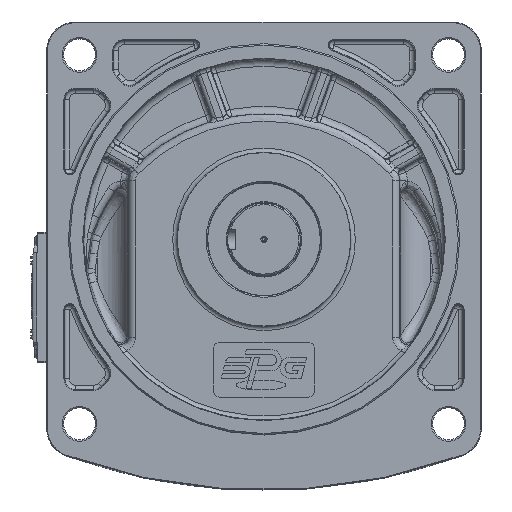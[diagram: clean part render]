
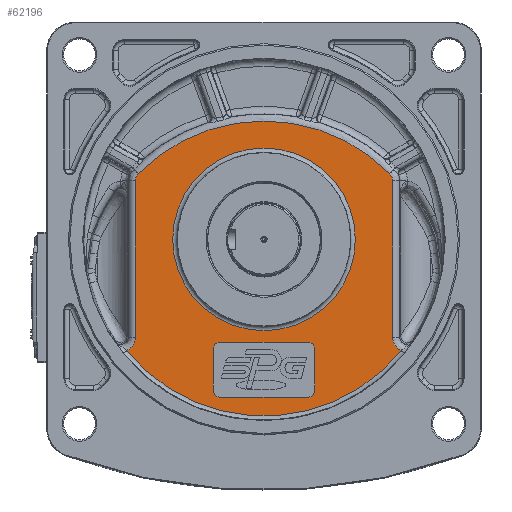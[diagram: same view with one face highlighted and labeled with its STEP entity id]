
A CAD part, front view. The second image highlights one B-rep face of the part: STEP entity #62196.
In plain terms, the highlighted planar face has unit normal (0, -1, 0).
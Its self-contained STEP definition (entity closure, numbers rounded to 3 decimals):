
#713=FACE_BOUND('',#14514,.T.);
#714=FACE_BOUND('',#14515,.T.);
#1749=PLANE('',#67605);
#3849=LINE('',#97499,#6842);
#3853=LINE('',#97511,#6846);
#3857=LINE('',#97523,#6850);
#3954=LINE('',#97799,#6947);
#4047=LINE('',#101322,#7040);
#4048=LINE('',#101324,#7041);
#6842=VECTOR('',#77996,10.);
#6846=VECTOR('',#78008,10.);
#6850=VECTOR('',#78020,10.);
#6947=VECTOR('',#78267,10.);
#7040=VECTOR('',#79038,10.);
#7041=VECTOR('',#79039,10.);
#10561=FACE_OUTER_BOUND('',#14513,.T.);
#14513=EDGE_LOOP('',(#45088,#45089,#45090,#45091,#45092,#45093,#45094,#45095));
#14514=EDGE_LOOP('',(#45096,#45097,#45098,#45099,#45100,#45101,#45102,#45103));
#14515=EDGE_LOOP('',(#45104));
#18444=CIRCLE('',#67183,5.);
#18446=CIRCLE('',#67187,5.);
#18448=CIRCLE('',#67191,5.);
#18450=CIRCLE('',#67195,5.);
#18592=CIRCLE('',#67471,121.601);
#18678=CIRCLE('',#67604,63.);
#18679=CIRCLE('',#67606,121.858);
#21170=B_SPLINE_CURVE_WITH_KNOTS('',3,(#99267,#99268,#99269,#99270,#99271),
 .UNSPECIFIED.,.F.,.F.,(4,1,4),(0.,0.309,0.541),
 .UNSPECIFIED.);
#21258=B_SPLINE_CURVE_WITH_KNOTS('',3,(#101152,#101153,#101154,#101155,
#101156),.UNSPECIFIED.,.F.,.F.,(4,1,4),(0.,0.232,0.541),
 .UNSPECIFIED.);
#21271=B_SPLINE_CURVE_WITH_KNOTS('',3,(#101315,#101316,#101317,#101318,
#101319,#101320,#101321),.UNSPECIFIED.,.F.,.F.,(4,1,1,1,4),(0.,
0.361,0.722,1.084,1.153),
 .UNSPECIFIED.);
#21272=B_SPLINE_CURVE_WITH_KNOTS('',3,(#101325,#101326,#101327,#101328,
#101329,#101330),.UNSPECIFIED.,.F.,.F.,(4,1,1,4),(1.376,1.806,
2.167,2.528),.UNSPECIFIED.);
#25366=VERTEX_POINT('',#97489);
#25367=VERTEX_POINT('',#97491);
#25369=VERTEX_POINT('',#97497);
#25371=VERTEX_POINT('',#97503);
#25373=VERTEX_POINT('',#97509);
#25375=VERTEX_POINT('',#97515);
#25377=VERTEX_POINT('',#97521);
#25379=VERTEX_POINT('',#97527);
#25580=VERTEX_POINT('',#99264);
#25581=VERTEX_POINT('',#99266);
#25594=VERTEX_POINT('',#99331);
#25694=VERTEX_POINT('',#101150);
#25710=VERTEX_POINT('',#101307);
#25711=VERTEX_POINT('',#101311);
#25712=VERTEX_POINT('',#101312);
#25713=VERTEX_POINT('',#101314);
#25714=VERTEX_POINT('',#101323);
#32001=EDGE_CURVE('',#25366,#25367,#18444,.T.);
#32005=EDGE_CURVE('',#25366,#25369,#3849,.T.);
#32008=EDGE_CURVE('',#25371,#25369,#18446,.T.);
#32011=EDGE_CURVE('',#25371,#25373,#3853,.T.);
#32014=EDGE_CURVE('',#25375,#25373,#18448,.T.);
#32017=EDGE_CURVE('',#25375,#25377,#3857,.T.);
#32020=EDGE_CURVE('',#25379,#25377,#18450,.T.);
#32156=EDGE_CURVE('',#25379,#25367,#3954,.T.);
#32373=EDGE_CURVE('',#25580,#25581,#21170,.T.);
#32388=EDGE_CURVE('',#25594,#25580,#18592,.T.);
#32564=EDGE_CURVE('',#25694,#25594,#21258,.T.);
#32597=EDGE_CURVE('',#25710,#25710,#18678,.T.);
#32598=EDGE_CURVE('',#25711,#25712,#18679,.T.);
#32599=EDGE_CURVE('',#25713,#25711,#21271,.T.);
#32600=EDGE_CURVE('',#25581,#25713,#4047,.T.);
#32601=EDGE_CURVE('',#25714,#25694,#4048,.T.);
#32602=EDGE_CURVE('',#25712,#25714,#21272,.T.);
#45088=ORIENTED_EDGE('',*,*,#32598,.F.);
#45089=ORIENTED_EDGE('',*,*,#32599,.F.);
#45090=ORIENTED_EDGE('',*,*,#32600,.F.);
#45091=ORIENTED_EDGE('',*,*,#32373,.F.);
#45092=ORIENTED_EDGE('',*,*,#32388,.F.);
#45093=ORIENTED_EDGE('',*,*,#32564,.F.);
#45094=ORIENTED_EDGE('',*,*,#32601,.F.);
#45095=ORIENTED_EDGE('',*,*,#32602,.F.);
#45096=ORIENTED_EDGE('',*,*,#32017,.T.);
#45097=ORIENTED_EDGE('',*,*,#32020,.F.);
#45098=ORIENTED_EDGE('',*,*,#32156,.T.);
#45099=ORIENTED_EDGE('',*,*,#32001,.F.);
#45100=ORIENTED_EDGE('',*,*,#32005,.T.);
#45101=ORIENTED_EDGE('',*,*,#32008,.F.);
#45102=ORIENTED_EDGE('',*,*,#32011,.T.);
#45103=ORIENTED_EDGE('',*,*,#32014,.F.);
#45104=ORIENTED_EDGE('',*,*,#32597,.F.);
#62196=ADVANCED_FACE('',(#10561,#713,#714),#1749,.F.);
#67183=AXIS2_PLACEMENT_3D('',#97492,#77989,#77990);
#67187=AXIS2_PLACEMENT_3D('',#97505,#78002,#78003);
#67191=AXIS2_PLACEMENT_3D('',#97517,#78014,#78015);
#67195=AXIS2_PLACEMENT_3D('',#97529,#78026,#78027);
#67471=AXIS2_PLACEMENT_3D('',#99333,#78737,#78738);
#67604=AXIS2_PLACEMENT_3D('',#101309,#79032,#79033);
#67605=AXIS2_PLACEMENT_3D('',#101310,#79034,#79035);
#67606=AXIS2_PLACEMENT_3D('',#101313,#79036,#79037);
#77989=DIRECTION('center_axis',(0.,-1.,0.));
#77990=DIRECTION('ref_axis',(0.707,0.,0.707));
#77996=DIRECTION('',(0.,0.,-1.));
#78002=DIRECTION('center_axis',(0.,-1.,0.));
#78003=DIRECTION('ref_axis',(0.707,0.,-0.707));
#78008=DIRECTION('',(-1.,0.,0.));
#78014=DIRECTION('center_axis',(0.,-1.,0.));
#78015=DIRECTION('ref_axis',(-0.707,0.,-0.707));
#78020=DIRECTION('',(0.,0.,1.));
#78026=DIRECTION('center_axis',(0.,-1.,0.));
#78027=DIRECTION('ref_axis',(-0.707,0.,0.707));
#78267=DIRECTION('',(1.,0.,0.));
#78737=DIRECTION('center_axis',(0.,1.,0.));
#78738=DIRECTION('ref_axis',(0.,0.,
1.));
#79032=DIRECTION('center_axis',(0.,-1.,0.));
#79033=DIRECTION('ref_axis',(-1.,0.,0.));
#79034=DIRECTION('center_axis',(0.,1.,0.));
#79035=DIRECTION('ref_axis',(-1.,0.,0.));
#79036=DIRECTION('center_axis',(0.,1.,0.));
#79037=DIRECTION('ref_axis',(0.,0.,
-1.));
#79038=DIRECTION('',(0.,0.,-1.));
#79039=DIRECTION('',(0.,0.,1.));
#97489=CARTESIAN_POINT('',(-22.569,2.,62.589));
#97491=CARTESIAN_POINT('',(-27.569,2.,67.589));
#97492=CARTESIAN_POINT('Origin',(-27.569,2.,62.589));
#97497=CARTESIAN_POINT('',(-22.569,2.,34.589));
#97499=CARTESIAN_POINT('',(-22.569,2.,64.089));
#97503=CARTESIAN_POINT('',(-27.569,2.,29.589));
#97505=CARTESIAN_POINT('Origin',(-27.569,2.,34.589));
#97509=CARTESIAN_POINT('',(-87.569,2.,29.589));
#97511=CARTESIAN_POINT('',(-75.069,2.,29.589));
#97515=CARTESIAN_POINT('',(-92.569,2.,34.589));
#97517=CARTESIAN_POINT('Origin',(-87.569,2.,34.589));
#97521=CARTESIAN_POINT('',(-92.569,2.,62.589));
#97523=CARTESIAN_POINT('',(-92.569,2.,83.089));
#97527=CARTESIAN_POINT('',(-87.569,2.,67.589));
#97529=CARTESIAN_POINT('Origin',(-87.569,2.,62.589));
#97799=CARTESIAN_POINT('',(-40.069,2.,67.589));
#99264=CARTESIAN_POINT('',(29.097,2.,183.887));
#99266=CARTESIAN_POINT('',(31.107,2.,178.978));
#99267=CARTESIAN_POINT('Ctrl Pts',(29.097,2.,183.887));
#99268=CARTESIAN_POINT('Ctrl Pts',(29.819,2.,183.153));
#99269=CARTESIAN_POINT('Ctrl Pts',(30.804,2.,181.571));
#99270=CARTESIAN_POINT('Ctrl Pts',(31.107,2.,179.75));
#99271=CARTESIAN_POINT('Ctrl Pts',(31.107,2.,178.978));
#99331=CARTESIAN_POINT('',(-144.235,2.,183.887));
#99333=CARTESIAN_POINT('Origin',(-57.569,2.,98.589));
#101150=CARTESIAN_POINT('',(-146.246,2.,178.978));
#101152=CARTESIAN_POINT('Ctrl Pts',(-146.246,2.,
178.978));
#101153=CARTESIAN_POINT('Ctrl Pts',(-146.246,2.,
179.75));
#101154=CARTESIAN_POINT('Ctrl Pts',(-145.943,2.,
181.571));
#101155=CARTESIAN_POINT('Ctrl Pts',(-144.958,2.,
183.153));
#101156=CARTESIAN_POINT('Ctrl Pts',(-144.235,2.,
183.887));
#101307=CARTESIAN_POINT('',(5.431,2.,138.589));
#101309=CARTESIAN_POINT('Origin',(-57.569,2.,138.589));
#101310=CARTESIAN_POINT('Origin',(-57.569,2.,98.589));
#101311=CARTESIAN_POINT('',(37.085,2.,61.843));
#101312=CARTESIAN_POINT('',(-152.224,2.,61.843));
#101313=CARTESIAN_POINT('Origin',(-57.569,2.,138.589));
#101314=CARTESIAN_POINT('',(31.107,2.,71.027));
#101315=CARTESIAN_POINT('Ctrl Pts',(31.107,2.,71.027));
#101316=CARTESIAN_POINT('Ctrl Pts',(31.107,2.,69.823));
#101317=CARTESIAN_POINT('Ctrl Pts',(31.547,2.,67.387));
#101318=CARTESIAN_POINT('Ctrl Pts',(33.451,2.,64.233));
#101319=CARTESIAN_POINT('Ctrl Pts',(35.57,2.,62.556));
#101320=CARTESIAN_POINT('Ctrl Pts',(36.873,2.,61.934));
#101321=CARTESIAN_POINT('Ctrl Pts',(37.085,2.,61.842));
#101322=CARTESIAN_POINT('',(31.107,2.,44.589));
#101323=CARTESIAN_POINT('',(-146.246,2.,71.027));
#101324=CARTESIAN_POINT('',(-146.246,2.,44.589));
#101325=CARTESIAN_POINT('Ctrl Pts',(-152.227,2.,
61.849));
#101326=CARTESIAN_POINT('Ctrl Pts',(-150.907,2.,62.433));
#101327=CARTESIAN_POINT('Ctrl Pts',(-148.703,2.,
64.025));
#101328=CARTESIAN_POINT('Ctrl Pts',(-146.69,2.,
67.396));
#101329=CARTESIAN_POINT('Ctrl Pts',(-146.246,2.,
69.823));
#101330=CARTESIAN_POINT('Ctrl Pts',(-146.246,2.,
71.027));
